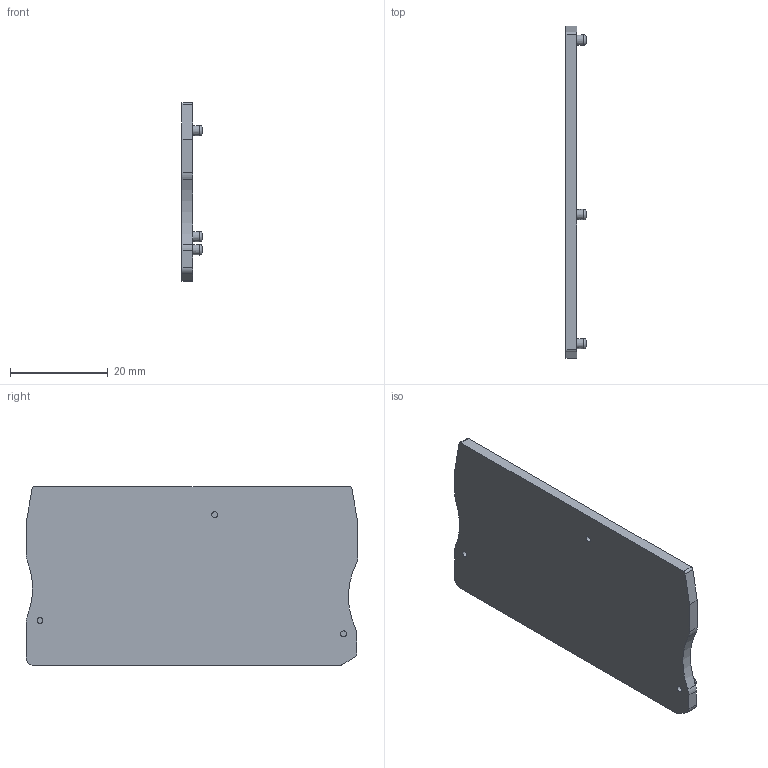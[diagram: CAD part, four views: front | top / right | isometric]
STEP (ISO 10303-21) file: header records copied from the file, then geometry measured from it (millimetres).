
FILE_DESCRIPTION(('Open CASCADE Model'),'2;1');
FILE_NAME('Open CASCADE Shape Model','2022-12-06T16:19:55',('Author'),( 'Open CASCADE'),'Open CASCADE STEP processor 6.5','Open CASCADE 6.5' ,'Unknown');
FILE_SCHEMA(('AUTOMOTIVE_DESIGN { 1 0 10303 214 1 1 1 1 }'));
Length unit declared in the file: millimetre
Products named in the file (111): CADSOFTTOOLS 8; CADSOFTTOOLS 8.1; CADSOFTTOOLS 8.2; CADSOFTTOOLS 8.3; CADSOFTTOOLS 8.4; CADSOFTTOOLS 8.5; CADSOFTTOOLS 8.6; CADSOFTTOOLS 8.7; CADSOFTTOOLS 8.8; CADSOFTTOOLS 8.9; CADSOFTTOOLS 8.10; CADSOFTTOOLS 8.11; CADSOFTTOOLS 8.12; CADSOFTTOOLS 8.13; CADSOFTTOOLS 8.14; CADSOFTTOOLS 8.15; CADSOFTTOOLS 8.16; CADSOFTTOOLS 8.17; CADSOFTTOOLS 8.18; CADSOFTTOOLS 8.19; CADSOFTTOOLS 8.20; CADSOFTTOOLS 8.21; CADSOFTTOOLS 8.22; CADSOFTTOOLS 8.23; CADSOFTTOOLS 8.24; CADSOFTTOOLS 8.25; CADSOFTTOOLS 8.26; CADSOFTTOOLS 8.27; CADSOFTTOOLS 8.28; CADSOFTTOOLS 8.29; CADSOFTTOOLS 8.30; CADSOFTTOOLS 8.31; CADSOFTTOOLS 8.32; CADSOFTTOOLS 8.33; CADSOFTTOOLS 8.34; CADSOFTTOOLS 8.35; CADSOFTTOOLS 8.36; CADSOFTTOOLS 8.37; CADSOFTTOOLS 8.38; CADSOFTTOOLS 8.39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
Assembly tree (110 placements, depth 2):
  CADSOFTTOOLS 8
    CADSOFTTOOLS 8.1
    CADSOFTTOOLS 8.2
    CADSOFTTOOLS 8.3
    CADSOFTTOOLS 8.4
    CADSOFTTOOLS 8.5
    CADSOFTTOOLS 8.6
    CADSOFTTOOLS 8.7
    CADSOFTTOOLS 8.8
    CADSOFTTOOLS 8.9
    CADSOFTTOOLS 8.10
    CADSOFTTOOLS 8.11
    CADSOFTTOOLS 8.12
    CADSOFTTOOLS 8.13
    CADSOFTTOOLS 8.14
    CADSOFTTOOLS 8.15
    CADSOFTTOOLS 8.16
    CADSOFTTOOLS 8.17
    CADSOFTTOOLS 8.18
    CADSOFTTOOLS 8.19
    CADSOFTTOOLS 8.20
    CADSOFTTOOLS 8.21
    CADSOFTTOOLS 8.22
    CADSOFTTOOLS 8.23
    CADSOFTTOOLS 8.24
    CADSOFTTOOLS 8.25
    CADSOFTTOOLS 8.26
    CADSOFTTOOLS 8.27
    CADSOFTTOOLS 8.28
    CADSOFTTOOLS 8.29
    CADSOFTTOOLS 8.30
    CADSOFTTOOLS 8.31
    CADSOFTTOOLS 8.32
    CADSOFTTOOLS 8.33
    CADSOFTTOOLS 8.34
    CADSOFTTOOLS 8.35
    CADSOFTTOOLS 8.36
    CADSOFTTOOLS 8.37
    CADSOFTTOOLS 8.38
    CADSOFTTOOLS 8.39
    CADSOFTTOOLS 8.40
    CADSOFTTOOLS 8.41
    CADSOFTTOOLS 8.42
    CADSOFTTOOLS 8.43
    CADSOFTTOOLS 8.44
    CADSOFTTOOLS 8.45
    CADSOFTTOOLS 8.46
    CADSOFTTOOLS 8.47
    CADSOFTTOOLS 8.48
    CADSOFTTOOLS 8.49
    CADSOFTTOOLS 8.50
    CADSOFTTOOLS 8.51
    CADSOFTTOOLS 8.52
    CADSOFTTOOLS 8.53
    CADSOFTTOOLS 8.54
    CADSOFTTOOLS 8.55
    CADSOFTTOOLS 8.56
    CADSOFTTOOLS 8.57
    CADSOFTTOOLS 8.58
    CADSOFTTOOLS 8.59
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Bounding box: 4.1 x 67.8 x 36.5 mm (x, y, z)
Surface area: 5612.1 mm2 (no closed solid volume)
Topology: 0 solids, 110 shells, 110 faces, 526 edges, 514 vertices
Faces by surface type: plane 60, cylinder 44, torus 3, cone 3
Full cylindrical faces by diameter (mm): 1 x3, 1.2 x3
Entity records: 11728 total; most frequent: CARTESIAN_POINT 2797, DIRECTION 1452, LINE 604, VECTOR 604, ORIENTED_EDGE 538, PCURVE 538, DEFINITIONAL_REPRESENTATION 538, EDGE_CURVE 526
